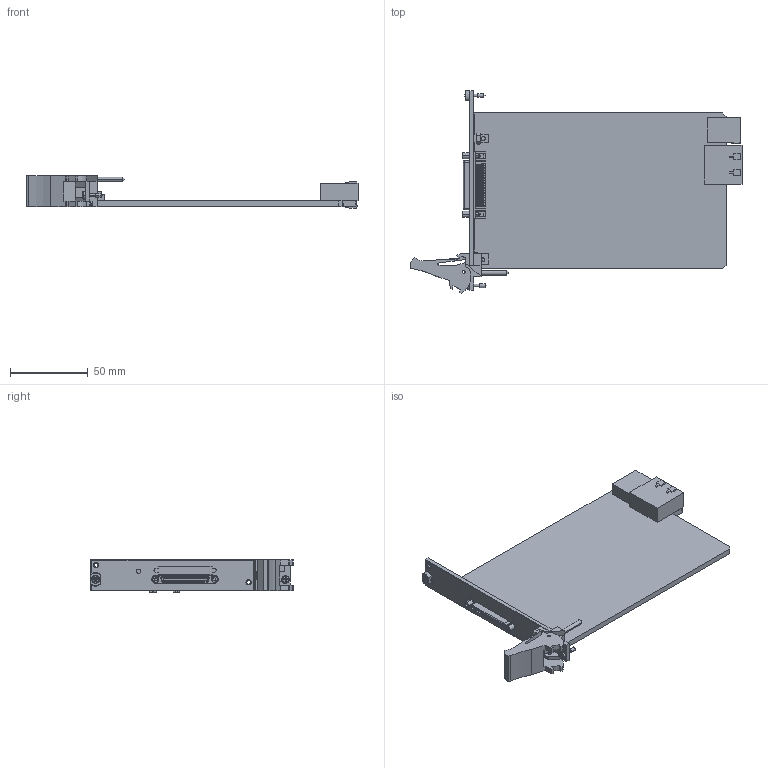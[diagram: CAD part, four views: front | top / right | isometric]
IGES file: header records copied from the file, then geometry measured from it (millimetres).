
Start section:  PTC IGES file: cu_pxie-mod-1x-68pos-vhdci.igs
Global section: file name: cu_pxie-mod-1x-68pos-vhdci.igs; native system: Pro/ENGINEER by Parametric Technology Corporation; preprocessor: 2006300; author: scarrasc; organization: Unknown; date: 20080721.131154; units: inch
Bounding box: 213.88 x 130.5 x 20.78 mm (x, y, z)
Surface area: 51700.1 mm2 (no closed solid volume)
Topology: 0 solids, 0 shells, 2092 faces, 11254 edges, 11250 vertices
Faces by surface type: bspline 1727, revolution 365
